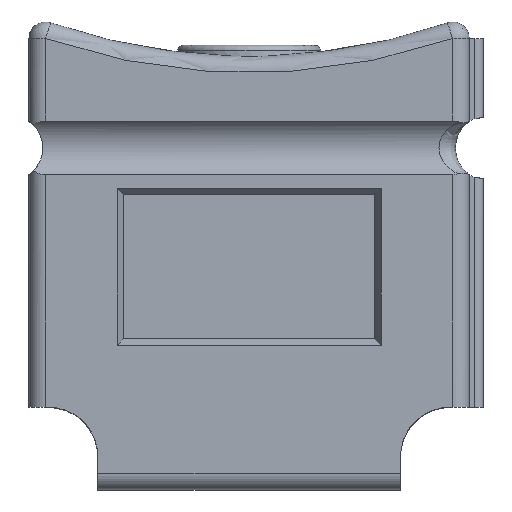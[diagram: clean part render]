
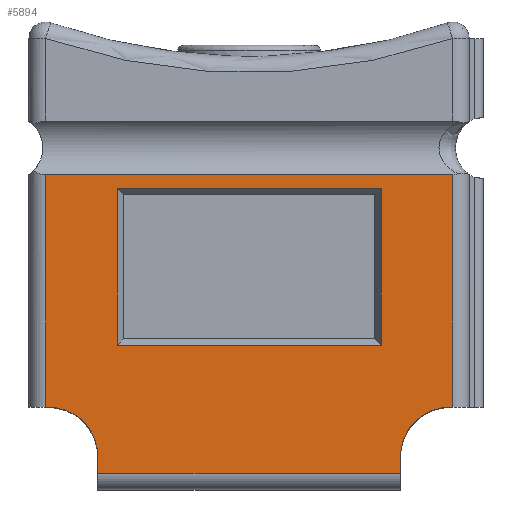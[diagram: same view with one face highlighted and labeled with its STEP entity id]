
A CAD part, top view. The second image highlights one B-rep face of the part: STEP entity #5894.
In plain terms, the highlighted planar face has unit normal (0, 0, 1).
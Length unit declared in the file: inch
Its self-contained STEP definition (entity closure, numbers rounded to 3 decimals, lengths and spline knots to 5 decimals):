
#883=CARTESIAN_POINT('',(26.02229,11.53212,0.62));
#884=VERTEX_POINT('',#883);
#892=CARTESIAN_POINT('',(24.92229,11.53212,0.62));
#893=VERTEX_POINT('',#892);
#894=CARTESIAN_POINT('',(26.02229,11.53212,0.62));
#895=DIRECTION('',(-1.0,0.0,0.0));
#896=VECTOR('',#895,1.1);
#897=LINE('',#894,#896);
#898=EDGE_CURVE('',#884,#893,#897,.T.);
#1163=CARTESIAN_POINT('',(24.73229,11.77212,0.62));
#1164=VERTEX_POINT('',#1163);
#1172=CARTESIAN_POINT('',(24.73229,12.61712,0.62));
#1173=VERTEX_POINT('',#1172);
#1174=CARTESIAN_POINT('',(24.73229,11.77212,0.62));
#1175=DIRECTION('',(0.0,1.0,0.0));
#1176=VECTOR('',#1175,0.845);
#1177=LINE('',#1174,#1176);
#1178=EDGE_CURVE('',#1164,#1173,#1177,.T.);
#1479=CARTESIAN_POINT('',(26.21229,12.61712,0.62));
#1480=VERTEX_POINT('',#1479);
#1490=CARTESIAN_POINT('',(26.21229,11.77212,0.62));
#1491=VERTEX_POINT('',#1490);
#1492=CARTESIAN_POINT('',(26.21229,12.61712,0.62));
#1493=DIRECTION('',(0.0,-1.0,0.0));
#1494=VECTOR('',#1493,0.845);
#1495=LINE('',#1492,#1494);
#1496=EDGE_CURVE('',#1480,#1491,#1495,.T.);
#4383=CARTESIAN_POINT('',(26.21229,12.61712,0.62));
#4384=DIRECTION('',(-1.0,0.0,0.0));
#4385=VECTOR('',#4384,1.48);
#4386=LINE('',#4383,#4385);
#4387=EDGE_CURVE('',#1480,#1173,#4386,.T.);
#5225=CARTESIAN_POINT('',(24.92229,11.59212,0.62));
#5226=VERTEX_POINT('',#5225);
#5227=CARTESIAN_POINT('',(24.92229,11.53212,0.62));
#5228=DIRECTION('',(0.0,1.0,0.0));
#5229=VECTOR('',#5228,0.06);
#5230=LINE('',#5227,#5229);
#5231=EDGE_CURVE('',#893,#5226,#5230,.T.);
#5266=CARTESIAN_POINT('',(24.99229,11.99712,0.62));
#5267=VERTEX_POINT('',#5266);
#5274=CARTESIAN_POINT('',(25.95229,11.99712,0.62));
#5275=VERTEX_POINT('',#5274);
#5276=CARTESIAN_POINT('',(25.95229,11.99712,0.62));
#5277=DIRECTION('',(-1.0,0.0,0.0));
#5278=VECTOR('',#5277,0.96);
#5279=LINE('',#5276,#5278);
#5280=EDGE_CURVE('',#5275,#5267,#5279,.T.);
#5305=CARTESIAN_POINT('',(25.95229,12.56712,0.62));
#5306=VERTEX_POINT('',#5305);
#5307=CARTESIAN_POINT('',(25.95229,12.56712,0.62));
#5308=DIRECTION('',(0.0,-1.0,0.0));
#5309=VECTOR('',#5308,0.57);
#5310=LINE('',#5307,#5309);
#5311=EDGE_CURVE('',#5306,#5275,#5310,.T.);
#5336=CARTESIAN_POINT('',(24.99229,12.56712,0.62));
#5337=VERTEX_POINT('',#5336);
#5338=CARTESIAN_POINT('',(24.99229,12.56712,0.62));
#5339=DIRECTION('',(1.0,0.0,0.0));
#5340=VECTOR('',#5339,0.96);
#5341=LINE('',#5338,#5340);
#5342=EDGE_CURVE('',#5337,#5306,#5341,.T.);
#5365=CARTESIAN_POINT('',(24.99229,11.99712,0.62));
#5366=DIRECTION('',(0.0,1.0,0.0));
#5367=VECTOR('',#5366,0.57);
#5368=LINE('',#5365,#5367);
#5369=EDGE_CURVE('',#5267,#5337,#5368,.T.);
#5693=CARTESIAN_POINT('',(26.20229,11.77212,0.62));
#5694=VERTEX_POINT('',#5693);
#5701=CARTESIAN_POINT('',(26.02229,11.59212,0.62));
#5702=VERTEX_POINT('',#5701);
#5703=CARTESIAN_POINT('',(26.20229,11.59212,0.62));
#5704=DIRECTION('',(0.0,0.0,1.0));
#5705=DIRECTION('',(-1.0,0.0,0.0));
#5706=AXIS2_PLACEMENT_3D('',#5703,#5704,#5705);
#5707=CIRCLE('',#5706,0.18);
#5708=EDGE_CURVE('',#5694,#5702,#5707,.T.);
#5727=CARTESIAN_POINT('',(24.74229,11.77212,0.62));
#5728=VERTEX_POINT('',#5727);
#5729=CARTESIAN_POINT('',(24.74229,11.59212,0.62));
#5730=DIRECTION('',(0.0,0.0,1.0));
#5731=DIRECTION('',(-1.0,0.0,0.0));
#5732=AXIS2_PLACEMENT_3D('',#5729,#5730,#5731);
#5733=CIRCLE('',#5732,0.18);
#5734=EDGE_CURVE('',#5226,#5728,#5733,.T.);
#5783=CARTESIAN_POINT('',(24.74229,11.77212,0.62));
#5784=DIRECTION('',(-1.0,0.0,0.0));
#5785=VECTOR('',#5784,0.01);
#5786=LINE('',#5783,#5785);
#5787=EDGE_CURVE('',#5728,#1164,#5786,.T.);
#5801=CARTESIAN_POINT('',(26.02229,11.59212,0.62));
#5802=DIRECTION('',(0.0,-1.0,0.0));
#5803=VECTOR('',#5802,0.06);
#5804=LINE('',#5801,#5803);
#5805=EDGE_CURVE('',#5702,#884,#5804,.T.);
#5866=CARTESIAN_POINT('',(25.22229,12.34114,0.62));
#5867=DIRECTION('',(0.0,0.0,-1.0));
#5868=DIRECTION('',(-1.0,0.0,0.0));
#5869=AXIS2_PLACEMENT_3D('',#5866,#5867,#5868);
#5870=PLANE('',#5869);
#5871=ORIENTED_EDGE('',*,*,#1496,.F.);
#5872=ORIENTED_EDGE('',*,*,#4387,.T.);
#5873=ORIENTED_EDGE('',*,*,#1178,.F.);
#5874=ORIENTED_EDGE('',*,*,#5787,.F.);
#5875=ORIENTED_EDGE('',*,*,#5734,.F.);
#5876=ORIENTED_EDGE('',*,*,#5231,.F.);
#5877=ORIENTED_EDGE('',*,*,#898,.F.);
#5878=ORIENTED_EDGE('',*,*,#5805,.F.);
#5879=ORIENTED_EDGE('',*,*,#5708,.F.);
#5880=CARTESIAN_POINT('',(26.21229,11.77212,0.62));
#5881=DIRECTION('',(-1.0,0.,0.0));
#5882=VECTOR('',#5881,0.01);
#5883=LINE('',#5880,#5882);
#5884=EDGE_CURVE('',#1491,#5694,#5883,.T.);
#5885=ORIENTED_EDGE('',*,*,#5884,.F.);
#5886=EDGE_LOOP('',(#5871,#5872,#5873,#5874,#5875,#5876,#5877,#5878,#5879,#5885));
#5887=FACE_OUTER_BOUND('',#5886,.T.);
#5888=ORIENTED_EDGE('',*,*,#5280,.T.);
#5889=ORIENTED_EDGE('',*,*,#5369,.T.);
#5890=ORIENTED_EDGE('',*,*,#5342,.T.);
#5891=ORIENTED_EDGE('',*,*,#5311,.T.);
#5892=EDGE_LOOP('',(#5888,#5889,#5890,#5891));
#5893=FACE_BOUND('',#5892,.T.);
#5894=ADVANCED_FACE('',(#5887,#5893),#5870,.F.);
